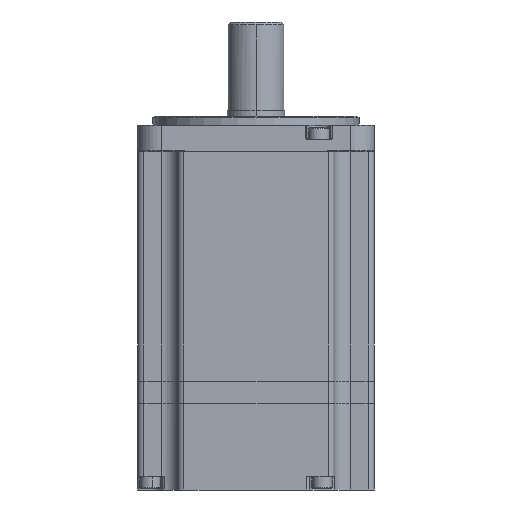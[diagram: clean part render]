
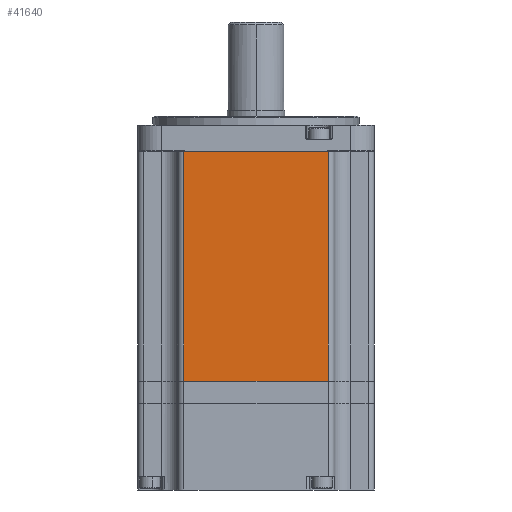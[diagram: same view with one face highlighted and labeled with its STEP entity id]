
A CAD part, front view. The second image highlights one B-rep face of the part: STEP entity #41640.
In plain terms, the highlighted planar face has unit normal (0, -1, 0).
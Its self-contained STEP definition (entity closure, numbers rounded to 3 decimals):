
#739 = CARTESIAN_POINT ( 'NONE',  ( -40.1, -40.1, 78. ) ) ;
#743 = PLANE ( 'NONE',  #39166 ) ;
#745 = DIRECTION ( 'NONE',  ( 0., 1., 0. ) ) ;
#746 = DIRECTION ( 'NONE',  ( 0., 0., 1. ) ) ;
#7225 = EDGE_LOOP ( 'NONE', ( #33779, #33780, #33781, #33782 ) ) ;
#11904 = LINE ( 'NONE', #14839, #11906 ) ;
#11906 = VECTOR ( 'NONE', #14834, 1000. ) ;
#14834 = DIRECTION ( 'NONE',  ( 1., 0., 0. ) ) ;
#14839 = CARTESIAN_POINT ( 'NONE',  ( -40.1, -40.1, 78. ) ) ;
#15218 = CARTESIAN_POINT ( 'NONE',  ( -24.5, -40.1, 78. ) ) ;
#15220 = CARTESIAN_POINT ( 'NONE',  ( 24.5, -40.1, 78. ) ) ;
#15264 = CARTESIAN_POINT ( 'NONE',  ( -24.5, -40.1, 0. ) ) ;
#15286 = CARTESIAN_POINT ( 'NONE',  ( 24.5, -40.1, 0. ) ) ;
#17291 = EDGE_CURVE ( 'NONE', #19841, #19845, #11904, .T. ) ;
#19420 = LINE ( 'NONE', #24219, #19424 ) ;
#19424 = VECTOR ( 'NONE', #24220, 1000. ) ;
#19444 = LINE ( 'NONE', #24244, #19450 ) ;
#19448 = LINE ( 'NONE', #24246, #19454 ) ;
#19450 = VECTOR ( 'NONE', #24245, 1000. ) ;
#19454 = VECTOR ( 'NONE', #24247, 1000. ) ;
#19841 = VERTEX_POINT ( 'NONE', #15218 ) ;
#19845 = VERTEX_POINT ( 'NONE', #15220 ) ;
#19933 = VERTEX_POINT ( 'NONE', #15264 ) ;
#19977 = VERTEX_POINT ( 'NONE', #15286 ) ;
#24219 = CARTESIAN_POINT ( 'NONE',  ( -40.1, -40.1, 0. ) ) ;
#24220 = DIRECTION ( 'NONE',  ( 1., 0., 0. ) ) ;
#24244 = CARTESIAN_POINT ( 'NONE',  ( -24.5, -40.1, 78. ) ) ;
#24245 = DIRECTION ( 'NONE',  ( 0., 0., -1. ) ) ;
#24246 = CARTESIAN_POINT ( 'NONE',  ( 24.5, -40.1, 78. ) ) ;
#24247 = DIRECTION ( 'NONE',  ( 0., 0., 1. ) ) ;
#30646 = EDGE_CURVE ( 'NONE', #19933, #19977, #19420, .T. ) ;
#30654 = EDGE_CURVE ( 'NONE', #19841, #19933, #19444, .T. ) ;
#30655 = EDGE_CURVE ( 'NONE', #19977, #19845, #19448, .T. ) ;
#33779 = ORIENTED_EDGE ( 'NONE', *, *, #17291, .F. ) ;
#33780 = ORIENTED_EDGE ( 'NONE', *, *, #30654, .T. ) ;
#33781 = ORIENTED_EDGE ( 'NONE', *, *, #30646, .T. ) ;
#33782 = ORIENTED_EDGE ( 'NONE', *, *, #30655, .T. ) ;
#39166 = AXIS2_PLACEMENT_3D ( 'NONE', #739, #745, #746 ) ;
#41640 = ADVANCED_FACE ( 'NONE', ( #43970 ), #743, .F. ) ;
#43970 = FACE_OUTER_BOUND ( 'NONE', #7225, .T. ) ;
